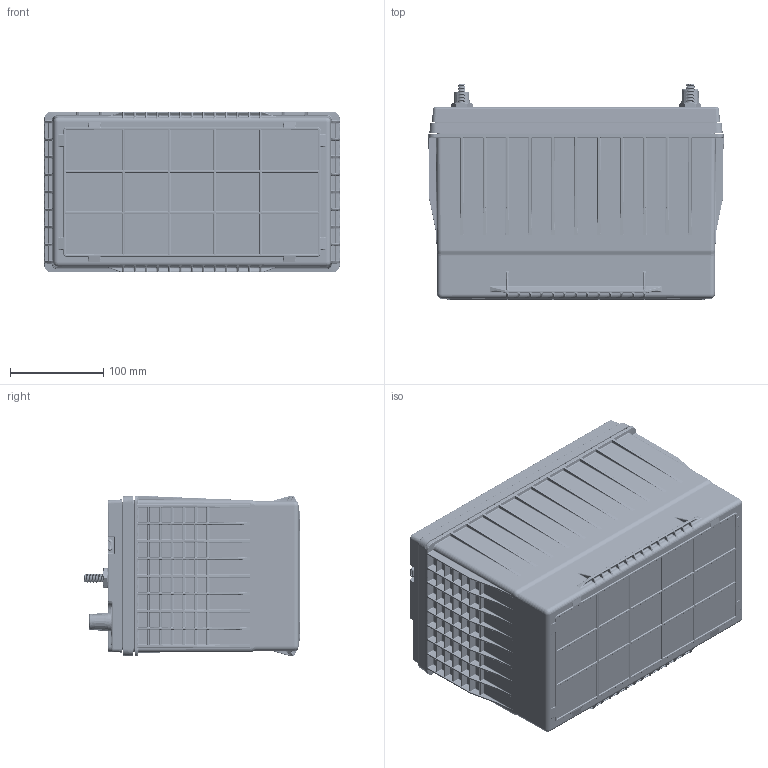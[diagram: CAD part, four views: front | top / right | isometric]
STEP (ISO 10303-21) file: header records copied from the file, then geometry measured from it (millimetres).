
FILE_DESCRIPTION (( 'STEP AP203' ), '1' );
FILE_NAME ('ODP-AGM27M.STEP', '2024-03-25T20:29:10', ( '' ), ( '' ), 'SwSTEP 2.0', 'SolidWorks 2022', '' );
FILE_SCHEMA (( 'CONFIG_CONTROL_DESIGN' ));
Products named in the file (1): ODP-AGM27M
Bounding box: 316 x 230.33 x 172 mm (x, y, z)
Volume: 1663592.5 mm3; surface area: 1150566.7 mm2
Topology: 26 solids, 26 shells, 11891 faces, 28472 edges, 15903 vertices
Faces by surface type: cylinder 4533, bspline 3155, plane 2346, sphere 829, torus 595, cone 433
Full cylindrical faces by diameter (mm): 6.35 x2, 7.925 x1, 7.937 x11, 7.938 x1, 8.953 x1, 8.954 x1, 9.525 x1, 10.084 x2, 10.319 x2, 14.275 x2, 15.24 x2, 15.596 x2, 15.6 x2, 15.828 x2, 15.875 x2, 16.5 x2, 18.8 x2, 19.025 x2, 19.329 x2, 19.99 x4, 20 x2, 23 x2, 25 x2, 33.325 x2
Entity records: 474218 total; most frequent: CARTESIAN_POINT 235755, ORIENTED_EDGE 54568, DIRECTION 44920, EDGE_CURVE 27284, AXIS2_PLACEMENT_3D 17304, VERTEX_POINT 15794, EDGE_LOOP 12306, FACE_OUTER_BOUND 11989
